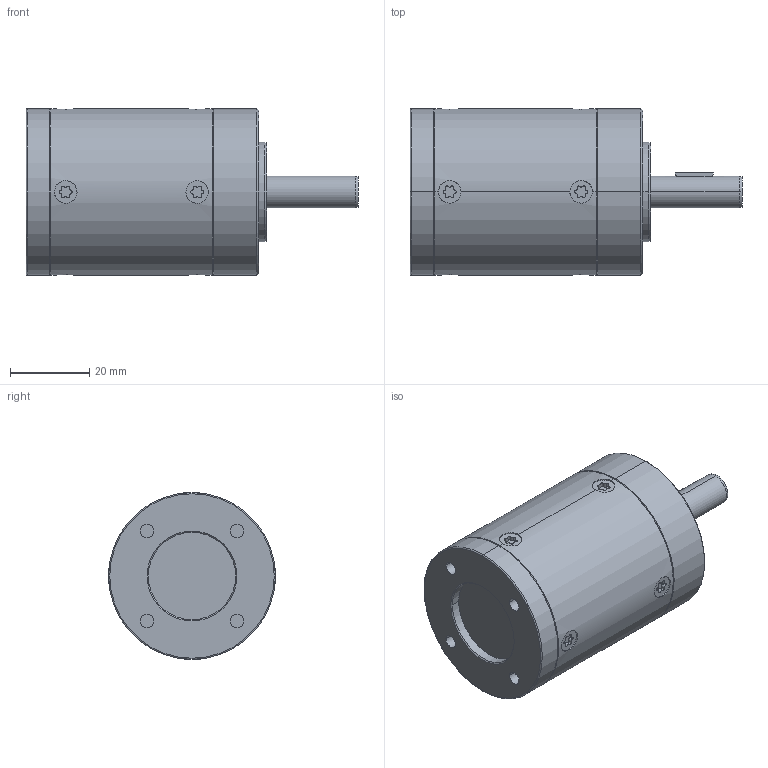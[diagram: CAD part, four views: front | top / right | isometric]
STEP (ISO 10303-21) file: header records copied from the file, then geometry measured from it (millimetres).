
FILE_DESCRIPTION((''),'2;1');
FILE_NAME('2-ST_8X25','2005-08-26T',('Andrej.Schneider'),(''),'PRO/ENGINEER BY PARAMETRIC TECHNOLOGY CORPORATION, 2003490','PRO/ENGINEER BY PARAMETRIC TECHNOLOGY CORPORATION, 2003490','');
FILE_SCHEMA(('AUTOMOTIVE_DESIGN_CC2 { 1 2 10303 214 -1 1 5 2 }'));
Length unit declared in the file: millimetre
Products named in the file (1): 2-ST_8X25
Bounding box: 83.6 x 42 x 42 mm (x, y, z)
Volume: 81311.5 mm3; surface area: 13476.9 mm2
Topology: 1 solids, 9 shells, 252 faces, 628 edges, 398 vertices
Faces by surface type: cylinder 166, cone 48, plane 36, torus 2
Entity records: 9534 total; most frequent: CARTESIAN_POINT 1529, DIRECTION 1472, ORIENTED_EDGE 1192, AXIS2_PLACEMENT_3D 625, EDGE_CURVE 612, VERTEX_POINT 398, CIRCLE 372, EDGE_LOOP 288
